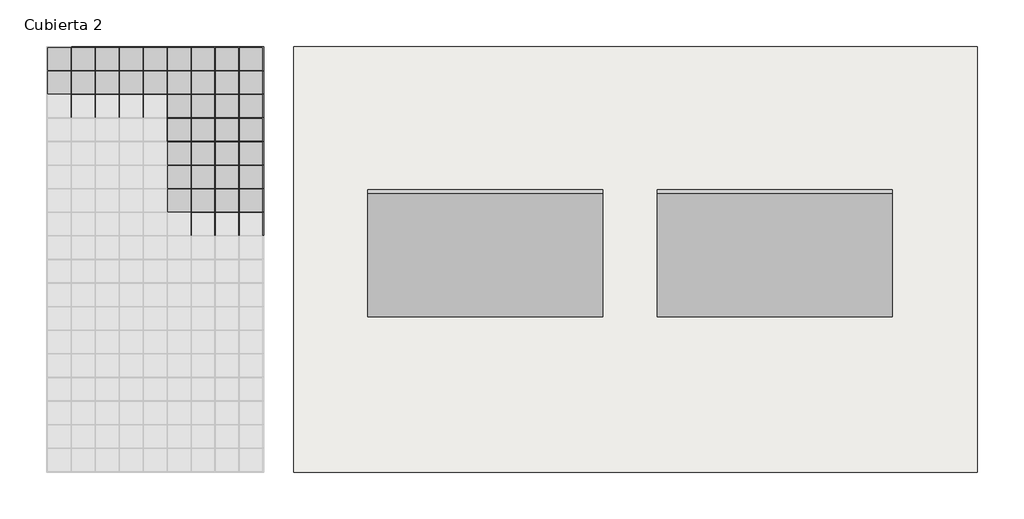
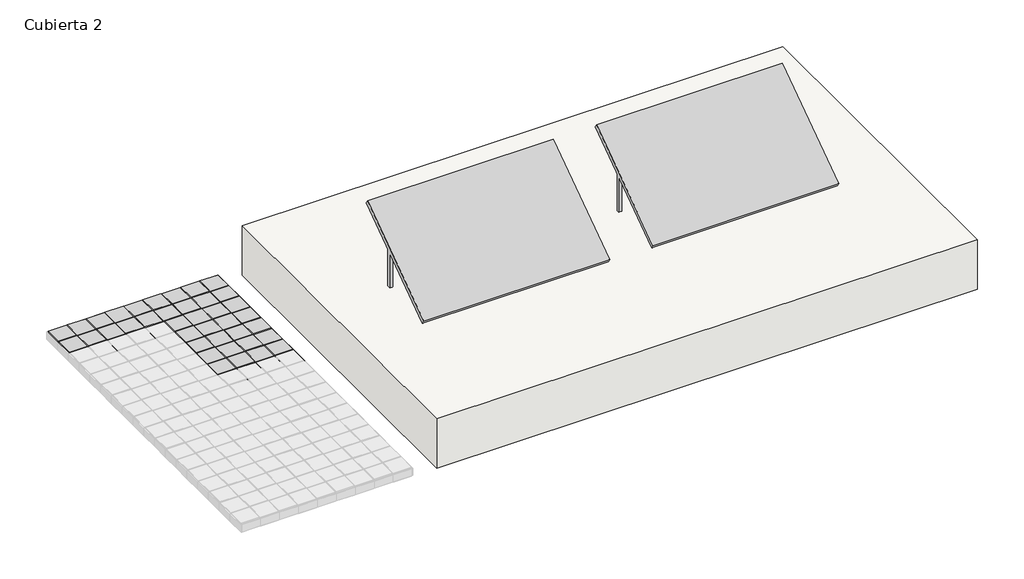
# One storey, part 4 of 4: 87 members, 38 plates, 2 geographic elements, 1 roof.
"""IFC4 building model written with IfcOpenShell, lengths in millimetres."""

from ifc_helpers import new_model, si_unit, frame, origin, place, context, project, spatial, polyline, outline, extrude, transform, mapped, element, save
from components import enscape_assetdefinition_solar_module_007_enscape_c3ce9a75, montante_rectangular_ea949198, montante_rectangular_327b2392, montante_rectangular_18b8adfa, montante_rectangular_c2f012c7, montante_rectangular_e7061a9b, montante_rectangular_ca4572ea, montante_rectangular_b9ac4352, panel_de_sistema_3571c154

model = new_model("IFC4")

# Units and contexts
model_context = context("Model", 3, world=origin())
ifc_project = project(units=[si_unit("LENGTHUNIT", "METRE", prefix="MILLI")], contexts=[model_context])

# Site, building, storey
site = spatial("IfcSite", under=ifc_project)
building = spatial("IfcBuilding", under=site)
storey = spatial("IfcBuildingStorey", under=building, Name="Cubierta 2", Elevation=9000.0)

# Geographic elements
placement = place(None, origin())
enscape_assetdefinition_solar_module_007_enscape_shape = enscape_assetdefinition_solar_module_007_enscape_c3ce9a75(model_context)
element("IfcGeographicElement", 1, ObjectType="Enscape AssetDefinition - Solar Module 007 : Enscape AssetDefinition - Solar Module 007 2", at=placement, inside=storey, context=model_context, shape_type="MappedRepresentation", body=[
    mapped(enscape_assetdefinition_solar_module_007_enscape_shape, transform((5.5350958, -6232.6669037, 9250.0), x_axis=(1.0, 0.0, 0.0), y_axis=(0.0, 1.0, 0.0), z_axis=(0.0, 0.0, 1.0))),
])
element("IfcGeographicElement", 2, ObjectType="Enscape AssetDefinition - Solar Module 007 : Enscape AssetDefinition - Solar Module 007 2", at=placement, inside=storey, context=model_context, shape_type="MappedRepresentation", body=[
    mapped(enscape_assetdefinition_solar_module_007_enscape_shape, transform((-2394.4649042, -6232.6669037, 9250.0), x_axis=(1.0, 0.0, 0.0), y_axis=(0.0, 1.0, 0.0), z_axis=(0.0, 0.0, 1.0))),
])

# Members
montante_rectangular_shape = montante_rectangular_ea949198(model_context)
element("IfcMember", 3, ObjectType="Montante rectangular : Junta de paves", at=placement, inside=storey, context=model_context, shape_type="MappedRepresentation", body=[
    mapped(montante_rectangular_shape, transform((-4827.7268467, -5886.5557926, 8750.0), x_axis=(0.0, 1.0, 0.0), y_axis=(0.0, 0.0, -1.0), z_axis=(-1.0, 0.0, 0.0))),
])
element("IfcMember", 4, ObjectType="Montante rectangular : Junta de paves", at=placement, inside=storey, context=model_context, shape_type="MappedRepresentation", body=[
    mapped(montante_rectangular_shape, transform((-4628.8379579, -5886.5557926, 8750.0), x_axis=(0.0, 1.0, 0.0), y_axis=(0.0, 0.0, -1.0), z_axis=(-1.0, 0.0, 0.0))),
])
element("IfcMember", 5, ObjectType="Montante rectangular : Junta de paves", at=placement, inside=storey, context=model_context, shape_type="MappedRepresentation", body=[
    mapped(montante_rectangular_shape, transform((-4429.949069, -5886.5557926, 8750.0), x_axis=(0.0, 1.0, 0.0), y_axis=(0.0, 0.0, -1.0), z_axis=(-1.0, 0.0, 0.0))),
])
element("IfcMember", 6, ObjectType="Montante rectangular : Junta de paves", at=placement, inside=storey, context=model_context, shape_type="MappedRepresentation", body=[
    mapped(montante_rectangular_shape, transform((-4827.7268467, -5691.000237, 8750.0), x_axis=(0.0, 1.0, 0.0), y_axis=(0.0, 0.0, -1.0), z_axis=(-1.0, 0.0, 0.0))),
])
element("IfcMember", 7, ObjectType="Montante rectangular : Junta de paves", at=placement, inside=storey, context=model_context, shape_type="MappedRepresentation", body=[
    mapped(montante_rectangular_shape, transform((-4628.8379579, -5691.000237, 8750.0), x_axis=(0.0, 1.0, 0.0), y_axis=(0.0, 0.0, -1.0), z_axis=(-1.0, 0.0, 0.0))),
])
element("IfcMember", 8, ObjectType="Montante rectangular : Junta de paves", at=placement, inside=storey, context=model_context, shape_type="MappedRepresentation", body=[
    mapped(montante_rectangular_shape, transform((-4429.949069, -5691.000237, 8750.0), x_axis=(0.0, 1.0, 0.0), y_axis=(0.0, 0.0, -1.0), z_axis=(-1.0, 0.0, 0.0))),
])
element("IfcMember", 9, ObjectType="Montante rectangular : Junta de paves", at=placement, inside=storey, context=model_context, shape_type="MappedRepresentation", body=[
    mapped(montante_rectangular_shape, transform((-4827.7268467, -5495.4446815, 8750.0), x_axis=(0.0, 1.0, 0.0), y_axis=(0.0, 0.0, -1.0), z_axis=(-1.0, 0.0, 0.0))),
])
element("IfcMember", 10, ObjectType="Montante rectangular : Junta de paves", at=placement, inside=storey, context=model_context, shape_type="MappedRepresentation", body=[
    mapped(montante_rectangular_shape, transform((-4628.8379579, -5495.4446815, 8750.0), x_axis=(0.0, 1.0, 0.0), y_axis=(0.0, 0.0, -1.0), z_axis=(-1.0, 0.0, 0.0))),
])
element("IfcMember", 11, ObjectType="Montante rectangular : Junta de paves", at=placement, inside=storey, context=model_context, shape_type="MappedRepresentation", body=[
    mapped(montante_rectangular_shape, transform((-4429.949069, -5495.4446815, 8750.0), x_axis=(0.0, 1.0, 0.0), y_axis=(0.0, 0.0, -1.0), z_axis=(-1.0, 0.0, 0.0))),
])
element("IfcMember", 12, ObjectType="Montante rectangular : Junta de paves", at=placement, inside=storey, context=model_context, shape_type="MappedRepresentation", body=[
    mapped(montante_rectangular_shape, transform((-4827.7268467, -5299.8891259, 8750.0), x_axis=(0.0, 1.0, 0.0), y_axis=(0.0, 0.0, -1.0), z_axis=(-1.0, 0.0, 0.0))),
])
element("IfcMember", 13, ObjectType="Montante rectangular : Junta de paves", at=placement, inside=storey, context=model_context, shape_type="MappedRepresentation", body=[
    mapped(montante_rectangular_shape, transform((-4628.8379579, -5299.8891259, 8750.0), x_axis=(0.0, 1.0, 0.0), y_axis=(0.0, 0.0, -1.0), z_axis=(-1.0, 0.0, 0.0))),
])
element("IfcMember", 14, ObjectType="Montante rectangular : Junta de paves", at=placement, inside=storey, context=model_context, shape_type="MappedRepresentation", body=[
    mapped(montante_rectangular_shape, transform((-4429.949069, -5299.8891259, 8750.0), x_axis=(0.0, 1.0, 0.0), y_axis=(0.0, 0.0, -1.0), z_axis=(-1.0, 0.0, 0.0))),
])
element("IfcMember", 15, ObjectType="Montante rectangular : Junta de paves", at=placement, inside=storey, context=model_context, shape_type="MappedRepresentation", body=[
    mapped(montante_rectangular_shape, transform((-4827.7268467, -5104.3335704, 8750.0), x_axis=(0.0, 1.0, 0.0), y_axis=(0.0, 0.0, -1.0), z_axis=(-1.0, 0.0, 0.0))),
])
element("IfcMember", 16, ObjectType="Montante rectangular : Junta de paves", at=placement, inside=storey, context=model_context, shape_type="MappedRepresentation", body=[
    mapped(montante_rectangular_shape, transform((-4628.8379579, -5104.3335704, 8750.0), x_axis=(0.0, 1.0, 0.0), y_axis=(0.0, 0.0, -1.0), z_axis=(-1.0, 0.0, 0.0))),
])
element("IfcMember", 17, ObjectType="Montante rectangular : Junta de paves", at=placement, inside=storey, context=model_context, shape_type="MappedRepresentation", body=[
    mapped(montante_rectangular_shape, transform((-4429.949069, -5104.3335704, 8750.0), x_axis=(0.0, 1.0, 0.0), y_axis=(0.0, 0.0, -1.0), z_axis=(-1.0, 0.0, 0.0))),
])
element("IfcMember", 18, ObjectType="Montante rectangular : Junta de paves", at=placement, inside=storey, context=model_context, shape_type="MappedRepresentation", body=[
    mapped(montante_rectangular_shape, transform((-5822.1712912, -4908.7780148, 8750.0), x_axis=(0.0, 1.0, 0.0), y_axis=(0.0, 0.0, -1.0), z_axis=(-1.0, 0.0, 0.0))),
])
element("IfcMember", 19, ObjectType="Montante rectangular : Junta de paves", at=placement, inside=storey, context=model_context, shape_type="MappedRepresentation", body=[
    mapped(montante_rectangular_shape, transform((-5623.2824023, -4908.7780148, 8750.0), x_axis=(0.0, 1.0, 0.0), y_axis=(0.0, 0.0, -1.0), z_axis=(-1.0, 0.0, 0.0))),
])
element("IfcMember", 20, ObjectType="Montante rectangular : Junta de paves", at=placement, inside=storey, context=model_context, shape_type="MappedRepresentation", body=[
    mapped(montante_rectangular_shape, transform((-5424.3935134, -4908.7780148, 8750.0), x_axis=(0.0, 1.0, 0.0), y_axis=(0.0, 0.0, -1.0), z_axis=(-1.0, 0.0, 0.0))),
])
element("IfcMember", 21, ObjectType="Montante rectangular : Junta de paves", at=placement, inside=storey, context=model_context, shape_type="MappedRepresentation", body=[
    mapped(montante_rectangular_shape, transform((-5225.5046245, -4908.7780148, 8750.0), x_axis=(0.0, 1.0, 0.0), y_axis=(0.0, 0.0, -1.0), z_axis=(-1.0, 0.0, 0.0))),
])
element("IfcMember", 22, ObjectType="Montante rectangular : Junta de paves", at=placement, inside=storey, context=model_context, shape_type="MappedRepresentation", body=[
    mapped(montante_rectangular_shape, transform((-5026.6157356, -4908.7780148, 8750.0), x_axis=(0.0, 1.0, 0.0), y_axis=(0.0, 0.0, -1.0), z_axis=(-1.0, 0.0, 0.0))),
])
element("IfcMember", 23, ObjectType="Montante rectangular : Junta de paves", at=placement, inside=storey, context=model_context, shape_type="MappedRepresentation", body=[
    mapped(montante_rectangular_shape, transform((-4827.7268467, -4908.7780148, 8750.0), x_axis=(0.0, 1.0, 0.0), y_axis=(0.0, 0.0, -1.0), z_axis=(-1.0, 0.0, 0.0))),
])
element("IfcMember", 24, ObjectType="Montante rectangular : Junta de paves", at=placement, inside=storey, context=model_context, shape_type="MappedRepresentation", body=[
    mapped(montante_rectangular_shape, transform((-4628.8379579, -4908.7780148, 8750.0), x_axis=(0.0, 1.0, 0.0), y_axis=(0.0, 0.0, -1.0), z_axis=(-1.0, 0.0, 0.0))),
])
element("IfcMember", 25, ObjectType="Montante rectangular : Junta de paves", at=placement, inside=storey, context=model_context, shape_type="MappedRepresentation", body=[
    mapped(montante_rectangular_shape, transform((-4429.949069, -4908.7780148, 8750.0), x_axis=(0.0, 1.0, 0.0), y_axis=(0.0, 0.0, -1.0), z_axis=(-1.0, 0.0, 0.0))),
])
element("IfcMember", 26, ObjectType="Montante rectangular : Junta de paves", at=placement, inside=storey, context=model_context, shape_type="MappedRepresentation", body=[
    mapped(montante_rectangular_shape, transform((-5822.1712912, -4713.2224592, 8750.0), x_axis=(0.0, 1.0, 0.0), y_axis=(0.0, 0.0, -1.0), z_axis=(-1.0, 0.0, 0.0))),
])
element("IfcMember", 27, ObjectType="Montante rectangular : Junta de paves", at=placement, inside=storey, context=model_context, shape_type="MappedRepresentation", body=[
    mapped(montante_rectangular_shape, transform((-5623.2824023, -4713.2224592, 8750.0), x_axis=(0.0, 1.0, 0.0), y_axis=(0.0, 0.0, -1.0), z_axis=(-1.0, 0.0, 0.0))),
])
element("IfcMember", 28, ObjectType="Montante rectangular : Junta de paves", at=placement, inside=storey, context=model_context, shape_type="MappedRepresentation", body=[
    mapped(montante_rectangular_shape, transform((-5424.3935134, -4713.2224592, 8750.0), x_axis=(0.0, 1.0, 0.0), y_axis=(0.0, 0.0, -1.0), z_axis=(-1.0, 0.0, 0.0))),
])
element("IfcMember", 29, ObjectType="Montante rectangular : Junta de paves", at=placement, inside=storey, context=model_context, shape_type="MappedRepresentation", body=[
    mapped(montante_rectangular_shape, transform((-5225.5046245, -4713.2224592, 8750.0), x_axis=(0.0, 1.0, 0.0), y_axis=(0.0, 0.0, -1.0), z_axis=(-1.0, 0.0, 0.0))),
])
element("IfcMember", 30, ObjectType="Montante rectangular : Junta de paves", at=placement, inside=storey, context=model_context, shape_type="MappedRepresentation", body=[
    mapped(montante_rectangular_shape, transform((-5026.6157356, -4713.2224592, 8750.0), x_axis=(0.0, 1.0, 0.0), y_axis=(0.0, 0.0, -1.0), z_axis=(-1.0, 0.0, 0.0))),
])
element("IfcMember", 31, ObjectType="Montante rectangular : Junta de paves", at=placement, inside=storey, context=model_context, shape_type="MappedRepresentation", body=[
    mapped(montante_rectangular_shape, transform((-4827.7268467, -4713.2224592, 8750.0), x_axis=(0.0, 1.0, 0.0), y_axis=(0.0, 0.0, -1.0), z_axis=(-1.0, 0.0, 0.0))),
])
element("IfcMember", 32, ObjectType="Montante rectangular : Junta de paves", at=placement, inside=storey, context=model_context, shape_type="MappedRepresentation", body=[
    mapped(montante_rectangular_shape, transform((-4628.8379579, -4713.2224592, 8750.0), x_axis=(0.0, 1.0, 0.0), y_axis=(0.0, 0.0, -1.0), z_axis=(-1.0, 0.0, 0.0))),
])
element("IfcMember", 33, ObjectType="Montante rectangular : Junta de paves", at=placement, inside=storey, context=model_context, shape_type="MappedRepresentation", body=[
    mapped(montante_rectangular_shape, transform((-4429.949069, -4713.2224592, 8750.0), x_axis=(0.0, 1.0, 0.0), y_axis=(0.0, 0.0, -1.0), z_axis=(-1.0, 0.0, 0.0))),
])
montante_rectangular_2_shape = montante_rectangular_327b2392(model_context)
element("IfcMember", 34, ObjectType="Montante rectangular : Junta de paves", at=placement, inside=storey, context=model_context, shape_type="MappedRepresentation", body=[
    mapped(montante_rectangular_2_shape, transform((-5827.1712912, -4522.6669037, 8750.0), x_axis=(1.0, 0.0, 0.0), y_axis=(0.0, 0.0, -1.0), z_axis=(0.0, 1.0, 0.0))),
])
element("IfcMember", 35, ObjectType="Montante rectangular : Junta de paves", at=placement, inside=storey, context=model_context, shape_type="MappedRepresentation", body=[
    mapped(montante_rectangular_2_shape, transform((-5628.2824023, -4522.6669037, 8750.0), x_axis=(1.0, 0.0, 0.0), y_axis=(0.0, 0.0, -1.0), z_axis=(0.0, 1.0, 0.0))),
])
element("IfcMember", 36, ObjectType="Montante rectangular : Junta de paves", at=placement, inside=storey, context=model_context, shape_type="MappedRepresentation", body=[
    mapped(montante_rectangular_2_shape, transform((-5429.3935134, -4522.6669037, 8750.0), x_axis=(1.0, 0.0, 0.0), y_axis=(0.0, 0.0, -1.0), z_axis=(0.0, 1.0, 0.0))),
])
element("IfcMember", 37, ObjectType="Montante rectangular : Junta de paves", at=placement, inside=storey, context=model_context, shape_type="MappedRepresentation", body=[
    mapped(montante_rectangular_2_shape, transform((-5230.5046245, -4522.6669037, 8750.0), x_axis=(1.0, 0.0, 0.0), y_axis=(0.0, 0.0, -1.0), z_axis=(0.0, 1.0, 0.0))),
])
element("IfcMember", 38, ObjectType="Montante rectangular : Junta de paves", at=placement, inside=storey, context=model_context, shape_type="MappedRepresentation", body=[
    mapped(montante_rectangular_2_shape, transform((-5031.6157356, -4522.6669037, 8750.0), x_axis=(1.0, 0.0, 0.0), y_axis=(0.0, 0.0, -1.0), z_axis=(0.0, 1.0, 0.0))),
])
element("IfcMember", 39, ObjectType="Montante rectangular : Junta de paves", at=placement, inside=storey, context=model_context, shape_type="MappedRepresentation", body=[
    mapped(montante_rectangular_2_shape, transform((-4832.7268467, -4522.6669037, 8750.0), x_axis=(1.0, 0.0, 0.0), y_axis=(0.0, 0.0, -1.0), z_axis=(0.0, 1.0, 0.0))),
])
element("IfcMember", 40, ObjectType="Montante rectangular : Junta de paves", at=placement, inside=storey, context=model_context, shape_type="MappedRepresentation", body=[
    mapped(montante_rectangular_2_shape, transform((-4633.8379579, -4522.6669037, 8750.0), x_axis=(1.0, 0.0, 0.0), y_axis=(0.0, 0.0, -1.0), z_axis=(0.0, 1.0, 0.0))),
])
element("IfcMember", 41, ObjectType="Montante rectangular : Junta de paves", at=placement, inside=storey, context=model_context, shape_type="MappedRepresentation", body=[
    mapped(montante_rectangular_2_shape, transform((-4434.949069, -4522.6669037, 8750.0), x_axis=(1.0, 0.0, 0.0), y_axis=(0.0, 0.0, -1.0), z_axis=(0.0, 1.0, 0.0))),
])
montante_rectangular_3_shape = montante_rectangular_18b8adfa(model_context)
element("IfcMember", 42, ObjectType="Montante rectangular : Junta de paves", at=placement, inside=storey, context=model_context, shape_type="MappedRepresentation", body=[
    mapped(montante_rectangular_3_shape, transform((-4832.7268467, -5886.5557926, 8750.0), x_axis=(1.0, 0.0, 0.0), y_axis=(0.0, 0.0, -1.0), z_axis=(0.0, 1.0, 0.0))),
])
element("IfcMember", 43, ObjectType="Montante rectangular : Junta de paves", at=placement, inside=storey, context=model_context, shape_type="MappedRepresentation", body=[
    mapped(montante_rectangular_3_shape, transform((-4633.8379579, -5886.5557926, 8750.0), x_axis=(1.0, 0.0, 0.0), y_axis=(0.0, 0.0, -1.0), z_axis=(0.0, 1.0, 0.0))),
])
element("IfcMember", 44, ObjectType="Montante rectangular : Junta de paves", at=placement, inside=storey, context=model_context, shape_type="MappedRepresentation", body=[
    mapped(montante_rectangular_3_shape, transform((-4434.949069, -5886.5557926, 8750.0), x_axis=(1.0, 0.0, 0.0), y_axis=(0.0, 0.0, -1.0), z_axis=(0.0, 1.0, 0.0))),
])
element("IfcMember", 45, ObjectType="Montante rectangular : Junta de paves", at=placement, inside=storey, context=model_context, shape_type="MappedRepresentation", body=[
    mapped(montante_rectangular_3_shape, transform((-4832.7268467, -5691.000237, 8750.0), x_axis=(1.0, 0.0, 0.0), y_axis=(0.0, 0.0, -1.0), z_axis=(0.0, 1.0, 0.0))),
])
element("IfcMember", 46, ObjectType="Montante rectangular : Junta de paves", at=placement, inside=storey, context=model_context, shape_type="MappedRepresentation", body=[
    mapped(montante_rectangular_3_shape, transform((-4633.8379579, -5691.000237, 8750.0), x_axis=(1.0, 0.0, 0.0), y_axis=(0.0, 0.0, -1.0), z_axis=(0.0, 1.0, 0.0))),
])
element("IfcMember", 47, ObjectType="Montante rectangular : Junta de paves", at=placement, inside=storey, context=model_context, shape_type="MappedRepresentation", body=[
    mapped(montante_rectangular_3_shape, transform((-4434.949069, -5691.000237, 8750.0), x_axis=(1.0, 0.0, 0.0), y_axis=(0.0, 0.0, -1.0), z_axis=(0.0, 1.0, 0.0))),
])
element("IfcMember", 48, ObjectType="Montante rectangular : Junta de paves", at=placement, inside=storey, context=model_context, shape_type="MappedRepresentation", body=[
    mapped(montante_rectangular_3_shape, transform((-4832.7268467, -5495.4446815, 8750.0), x_axis=(1.0, 0.0, 0.0), y_axis=(0.0, 0.0, -1.0), z_axis=(0.0, 1.0, 0.0))),
])
element("IfcMember", 49, ObjectType="Montante rectangular : Junta de paves", at=placement, inside=storey, context=model_context, shape_type="MappedRepresentation", body=[
    mapped(montante_rectangular_3_shape, transform((-4633.8379579, -5495.4446815, 8750.0), x_axis=(1.0, 0.0, 0.0), y_axis=(0.0, 0.0, -1.0), z_axis=(0.0, 1.0, 0.0))),
])
element("IfcMember", 50, ObjectType="Montante rectangular : Junta de paves", at=placement, inside=storey, context=model_context, shape_type="MappedRepresentation", body=[
    mapped(montante_rectangular_3_shape, transform((-4434.949069, -5495.4446815, 8750.0), x_axis=(1.0, 0.0, 0.0), y_axis=(0.0, 0.0, -1.0), z_axis=(0.0, 1.0, 0.0))),
])
element("IfcMember", 51, ObjectType="Montante rectangular : Junta de paves", at=placement, inside=storey, context=model_context, shape_type="MappedRepresentation", body=[
    mapped(montante_rectangular_3_shape, transform((-4832.7268467, -5299.8891259, 8750.0), x_axis=(1.0, 0.0, 0.0), y_axis=(0.0, 0.0, -1.0), z_axis=(0.0, 1.0, 0.0))),
])
element("IfcMember", 52, ObjectType="Montante rectangular : Junta de paves", at=placement, inside=storey, context=model_context, shape_type="MappedRepresentation", body=[
    mapped(montante_rectangular_3_shape, transform((-4633.8379579, -5299.8891259, 8750.0), x_axis=(1.0, 0.0, 0.0), y_axis=(0.0, 0.0, -1.0), z_axis=(0.0, 1.0, 0.0))),
])
element("IfcMember", 53, ObjectType="Montante rectangular : Junta de paves", at=placement, inside=storey, context=model_context, shape_type="MappedRepresentation", body=[
    mapped(montante_rectangular_3_shape, transform((-4434.949069, -5299.8891259, 8750.0), x_axis=(1.0, 0.0, 0.0), y_axis=(0.0, 0.0, -1.0), z_axis=(0.0, 1.0, 0.0))),
])
element("IfcMember", 54, ObjectType="Montante rectangular : Junta de paves", at=placement, inside=storey, context=model_context, shape_type="MappedRepresentation", body=[
    mapped(montante_rectangular_3_shape, transform((-5031.6157356, -5104.3335704, 8750.0), x_axis=(1.0, 0.0, 0.0), y_axis=(0.0, 0.0, -1.0), z_axis=(0.0, 1.0, 0.0))),
])
element("IfcMember", 55, ObjectType="Montante rectangular : Junta de paves", at=placement, inside=storey, context=model_context, shape_type="MappedRepresentation", body=[
    mapped(montante_rectangular_3_shape, transform((-4832.7268467, -5104.3335704, 8750.0), x_axis=(1.0, 0.0, 0.0), y_axis=(0.0, 0.0, -1.0), z_axis=(0.0, 1.0, 0.0))),
])
element("IfcMember", 56, ObjectType="Montante rectangular : Junta de paves", at=placement, inside=storey, context=model_context, shape_type="MappedRepresentation", body=[
    mapped(montante_rectangular_3_shape, transform((-4633.8379579, -5104.3335704, 8750.0), x_axis=(1.0, 0.0, 0.0), y_axis=(0.0, 0.0, -1.0), z_axis=(0.0, 1.0, 0.0))),
])
element("IfcMember", 57, ObjectType="Montante rectangular : Junta de paves", at=placement, inside=storey, context=model_context, shape_type="MappedRepresentation", body=[
    mapped(montante_rectangular_3_shape, transform((-4434.949069, -5104.3335704, 8750.0), x_axis=(1.0, 0.0, 0.0), y_axis=(0.0, 0.0, -1.0), z_axis=(0.0, 1.0, 0.0))),
])
element("IfcMember", 58, ObjectType="Montante rectangular : Junta de paves", at=placement, inside=storey, context=model_context, shape_type="MappedRepresentation", body=[
    mapped(montante_rectangular_3_shape, transform((-5827.1712912, -4908.7780148, 8750.0), x_axis=(1.0, 0.0, 0.0), y_axis=(0.0, 0.0, -1.0), z_axis=(0.0, 1.0, 0.0))),
])
element("IfcMember", 59, ObjectType="Montante rectangular : Junta de paves", at=placement, inside=storey, context=model_context, shape_type="MappedRepresentation", body=[
    mapped(montante_rectangular_3_shape, transform((-5628.2824023, -4908.7780148, 8750.0), x_axis=(1.0, 0.0, 0.0), y_axis=(0.0, 0.0, -1.0), z_axis=(0.0, 1.0, 0.0))),
])
element("IfcMember", 60, ObjectType="Montante rectangular : Junta de paves", at=placement, inside=storey, context=model_context, shape_type="MappedRepresentation", body=[
    mapped(montante_rectangular_3_shape, transform((-5429.3935134, -4908.7780148, 8750.0), x_axis=(1.0, 0.0, 0.0), y_axis=(0.0, 0.0, -1.0), z_axis=(0.0, 1.0, 0.0))),
])
element("IfcMember", 61, ObjectType="Montante rectangular : Junta de paves", at=placement, inside=storey, context=model_context, shape_type="MappedRepresentation", body=[
    mapped(montante_rectangular_3_shape, transform((-5230.5046245, -4908.7780148, 8750.0), x_axis=(1.0, 0.0, 0.0), y_axis=(0.0, 0.0, -1.0), z_axis=(0.0, 1.0, 0.0))),
])
element("IfcMember", 62, ObjectType="Montante rectangular : Junta de paves", at=placement, inside=storey, context=model_context, shape_type="MappedRepresentation", body=[
    mapped(montante_rectangular_3_shape, transform((-5031.6157356, -4908.7780148, 8750.0), x_axis=(1.0, 0.0, 0.0), y_axis=(0.0, 0.0, -1.0), z_axis=(0.0, 1.0, 0.0))),
])
element("IfcMember", 63, ObjectType="Montante rectangular : Junta de paves", at=placement, inside=storey, context=model_context, shape_type="MappedRepresentation", body=[
    mapped(montante_rectangular_3_shape, transform((-4832.7268467, -4908.7780148, 8750.0), x_axis=(1.0, 0.0, 0.0), y_axis=(0.0, 0.0, -1.0), z_axis=(0.0, 1.0, 0.0))),
])
element("IfcMember", 64, ObjectType="Montante rectangular : Junta de paves", at=placement, inside=storey, context=model_context, shape_type="MappedRepresentation", body=[
    mapped(montante_rectangular_3_shape, transform((-4633.8379579, -4908.7780148, 8750.0), x_axis=(1.0, 0.0, 0.0), y_axis=(0.0, 0.0, -1.0), z_axis=(0.0, 1.0, 0.0))),
])
element("IfcMember", 65, ObjectType="Montante rectangular : Junta de paves", at=placement, inside=storey, context=model_context, shape_type="MappedRepresentation", body=[
    mapped(montante_rectangular_3_shape, transform((-4434.949069, -4908.7780148, 8750.0), x_axis=(1.0, 0.0, 0.0), y_axis=(0.0, 0.0, -1.0), z_axis=(0.0, 1.0, 0.0))),
])
element("IfcMember", 66, ObjectType="Montante rectangular : Junta de paves", at=placement, inside=storey, context=model_context, shape_type="MappedRepresentation", body=[
    mapped(montante_rectangular_3_shape, transform((-5827.1712912, -4713.2224592, 8750.0), x_axis=(1.0, 0.0, 0.0), y_axis=(0.0, 0.0, -1.0), z_axis=(0.0, 1.0, 0.0))),
])
element("IfcMember", 67, ObjectType="Montante rectangular : Junta de paves", at=placement, inside=storey, context=model_context, shape_type="MappedRepresentation", body=[
    mapped(montante_rectangular_3_shape, transform((-5628.2824023, -4713.2224592, 8750.0), x_axis=(1.0, 0.0, 0.0), y_axis=(0.0, 0.0, -1.0), z_axis=(0.0, 1.0, 0.0))),
])
element("IfcMember", 68, ObjectType="Montante rectangular : Junta de paves", at=placement, inside=storey, context=model_context, shape_type="MappedRepresentation", body=[
    mapped(montante_rectangular_3_shape, transform((-5429.3935134, -4713.2224592, 8750.0), x_axis=(1.0, 0.0, 0.0), y_axis=(0.0, 0.0, -1.0), z_axis=(0.0, 1.0, 0.0))),
])
element("IfcMember", 69, ObjectType="Montante rectangular : Junta de paves", at=placement, inside=storey, context=model_context, shape_type="MappedRepresentation", body=[
    mapped(montante_rectangular_3_shape, transform((-5230.5046245, -4713.2224592, 8750.0), x_axis=(1.0, 0.0, 0.0), y_axis=(0.0, 0.0, -1.0), z_axis=(0.0, 1.0, 0.0))),
])
element("IfcMember", 70, ObjectType="Montante rectangular : Junta de paves", at=placement, inside=storey, context=model_context, shape_type="MappedRepresentation", body=[
    mapped(montante_rectangular_3_shape, transform((-5031.6157356, -4713.2224592, 8750.0), x_axis=(1.0, 0.0, 0.0), y_axis=(0.0, 0.0, -1.0), z_axis=(0.0, 1.0, 0.0))),
])
element("IfcMember", 71, ObjectType="Montante rectangular : Junta de paves", at=placement, inside=storey, context=model_context, shape_type="MappedRepresentation", body=[
    mapped(montante_rectangular_3_shape, transform((-4832.7268467, -4713.2224592, 8750.0), x_axis=(1.0, 0.0, 0.0), y_axis=(0.0, 0.0, -1.0), z_axis=(0.0, 1.0, 0.0))),
])
element("IfcMember", 72, ObjectType="Montante rectangular : Junta de paves", at=placement, inside=storey, context=model_context, shape_type="MappedRepresentation", body=[
    mapped(montante_rectangular_3_shape, transform((-4633.8379579, -4713.2224592, 8750.0), x_axis=(1.0, 0.0, 0.0), y_axis=(0.0, 0.0, -1.0), z_axis=(0.0, 1.0, 0.0))),
])
element("IfcMember", 73, ObjectType="Montante rectangular : Junta de paves", at=placement, inside=storey, context=model_context, shape_type="MappedRepresentation", body=[
    mapped(montante_rectangular_3_shape, transform((-4434.949069, -4713.2224592, 8750.0), x_axis=(1.0, 0.0, 0.0), y_axis=(0.0, 0.0, -1.0), z_axis=(0.0, 1.0, 0.0))),
])
montante_rectangular_4_shape = montante_rectangular_c2f012c7(model_context)
element("IfcMember", 74, ObjectType="Montante rectangular : Junta de paves", at=placement, inside=storey, context=model_context, shape_type="MappedRepresentation", body=[
    mapped(montante_rectangular_4_shape, transform((-4231.0601801, -4512.6669037, 8750.0), x_axis=(1.0, 0.0, 0.0), y_axis=(0.0, 0.0, -1.0), z_axis=(0.0, 1.0, 0.0))),
])
montante_rectangular_5_shape = montante_rectangular_e7061a9b(model_context)
element("IfcMember", 75, ObjectType="Montante rectangular : Junta de paves", at=placement, inside=storey, context=model_context, shape_type="MappedRepresentation", body=[
    mapped(montante_rectangular_5_shape, transform((-4434.949069, -4512.6669037, 8750.0), x_axis=(0.0, 1.0, 0.0), y_axis=(0.0, 0.0, -1.0), z_axis=(-1.0, 0.0, 0.0))),
])
montante_rectangular_6_shape = montante_rectangular_ca4572ea(model_context)
element("IfcMember", 76, ObjectType="Montante rectangular : Junta de paves", at=placement, inside=storey, context=model_context, shape_type="MappedRepresentation", body=[
    mapped(montante_rectangular_6_shape, transform((-5827.1712912, -4512.6669037, 8750.0), x_axis=(0.0, 1.0, 0.0), y_axis=(0.0, 0.0, -1.0), z_axis=(-1.0, 0.0, 0.0))),
])
element("IfcMember", 77, ObjectType="Montante rectangular : Junta de paves", at=placement, inside=storey, context=model_context, shape_type="MappedRepresentation", body=[
    mapped(montante_rectangular_6_shape, transform((-5628.2824023, -4512.6669037, 8750.0), x_axis=(0.0, 1.0, 0.0), y_axis=(0.0, 0.0, -1.0), z_axis=(-1.0, 0.0, 0.0))),
])
element("IfcMember", 78, ObjectType="Montante rectangular : Junta de paves", at=placement, inside=storey, context=model_context, shape_type="MappedRepresentation", body=[
    mapped(montante_rectangular_6_shape, transform((-5429.3935134, -4512.6669037, 8750.0), x_axis=(0.0, 1.0, 0.0), y_axis=(0.0, 0.0, -1.0), z_axis=(-1.0, 0.0, 0.0))),
])
element("IfcMember", 79, ObjectType="Montante rectangular : Junta de paves", at=placement, inside=storey, context=model_context, shape_type="MappedRepresentation", body=[
    mapped(montante_rectangular_6_shape, transform((-5230.5046245, -4512.6669037, 8750.0), x_axis=(0.0, 1.0, 0.0), y_axis=(0.0, 0.0, -1.0), z_axis=(-1.0, 0.0, 0.0))),
])
element("IfcMember", 80, ObjectType="Montante rectangular : Junta de paves", at=placement, inside=storey, context=model_context, shape_type="MappedRepresentation", body=[
    mapped(montante_rectangular_6_shape, transform((-5031.6157356, -4512.6669037, 8750.0), x_axis=(0.0, 1.0, 0.0), y_axis=(0.0, 0.0, -1.0), z_axis=(-1.0, 0.0, 0.0))),
])
element("IfcMember", 81, ObjectType="Montante rectangular : Junta de paves", at=placement, inside=storey, context=model_context, shape_type="MappedRepresentation", body=[
    mapped(montante_rectangular_6_shape, transform((-4832.7268467, -4512.6669037, 8750.0), x_axis=(0.0, 1.0, 0.0), y_axis=(0.0, 0.0, -1.0), z_axis=(-1.0, 0.0, 0.0))),
])
element("IfcMember", 82, ObjectType="Montante rectangular : Junta de paves", at=placement, inside=storey, context=model_context, shape_type="MappedRepresentation", body=[
    mapped(montante_rectangular_6_shape, transform((-4633.8379579, -4512.6669037, 8750.0), x_axis=(0.0, 1.0, 0.0), y_axis=(0.0, 0.0, -1.0), z_axis=(-1.0, 0.0, 0.0))),
])
montante_rectangular_7_shape = montante_rectangular_b9ac4352(model_context)
element("IfcMember", 83, ObjectType="Montante rectangular : Junta de paves", at=placement, inside=storey, context=model_context, shape_type="MappedRepresentation", body=[
    mapped(montante_rectangular_7_shape, transform((-4231.0601801, -5886.5557926, 8750.0), x_axis=(1.0, 0.0, 0.0), y_axis=(0.0, 0.0, -1.0), z_axis=(0.0, 1.0, 0.0))),
])
element("IfcMember", 84, ObjectType="Montante rectangular : Junta de paves", at=placement, inside=storey, context=model_context, shape_type="MappedRepresentation", body=[
    mapped(montante_rectangular_7_shape, transform((-4231.0601801, -5691.000237, 8750.0), x_axis=(1.0, 0.0, 0.0), y_axis=(0.0, 0.0, -1.0), z_axis=(0.0, 1.0, 0.0))),
])
element("IfcMember", 85, ObjectType="Montante rectangular : Junta de paves", at=placement, inside=storey, context=model_context, shape_type="MappedRepresentation", body=[
    mapped(montante_rectangular_7_shape, transform((-4231.0601801, -5495.4446815, 8750.0), x_axis=(1.0, 0.0, 0.0), y_axis=(0.0, 0.0, -1.0), z_axis=(0.0, 1.0, 0.0))),
])
element("IfcMember", 86, ObjectType="Montante rectangular : Junta de paves", at=placement, inside=storey, context=model_context, shape_type="MappedRepresentation", body=[
    mapped(montante_rectangular_7_shape, transform((-4231.0601801, -5299.8891259, 8750.0), x_axis=(1.0, 0.0, 0.0), y_axis=(0.0, 0.0, -1.0), z_axis=(0.0, 1.0, 0.0))),
])
element("IfcMember", 87, ObjectType="Montante rectangular : Junta de paves", at=placement, inside=storey, context=model_context, shape_type="MappedRepresentation", body=[
    mapped(montante_rectangular_7_shape, transform((-4231.0601801, -5104.3335704, 8750.0), x_axis=(1.0, 0.0, 0.0), y_axis=(0.0, 0.0, -1.0), z_axis=(0.0, 1.0, 0.0))),
])
element("IfcMember", 88, ObjectType="Montante rectangular : Junta de paves", at=placement, inside=storey, context=model_context, shape_type="MappedRepresentation", body=[
    mapped(montante_rectangular_7_shape, transform((-4231.0601801, -4908.7780148, 8750.0), x_axis=(1.0, 0.0, 0.0), y_axis=(0.0, 0.0, -1.0), z_axis=(0.0, 1.0, 0.0))),
])
element("IfcMember", 89, ObjectType="Montante rectangular : Junta de paves", at=placement, inside=storey, context=model_context, shape_type="MappedRepresentation", body=[
    mapped(montante_rectangular_7_shape, transform((-4231.0601801, -4713.2224592, 8750.0), x_axis=(1.0, 0.0, 0.0), y_axis=(0.0, 0.0, -1.0), z_axis=(0.0, 1.0, 0.0))),
])

# Plates
panel_de_sistema_shape = panel_de_sistema_3571c154(model_context)
element("IfcPlate", 90, ObjectType="Panel de sistema : PAVES", at=placement, inside=storey, context=model_context, shape_type="MappedRepresentation", body=[
    mapped(panel_de_sistema_shape, transform((-4932.1712912, -5881.5557926, 8750.0), x_axis=(1.0, 0.0, 0.0), y_axis=(0.0, 0.0, -1.0), z_axis=(0.0, 1.0, 0.0))),
])
element("IfcPlate", 91, ObjectType="Panel de sistema : PAVES", at=placement, inside=storey, context=model_context, shape_type="MappedRepresentation", body=[
    mapped(panel_de_sistema_shape, transform((-4733.2824023, -5881.5557926, 8750.0), x_axis=(1.0, 0.0, 0.0), y_axis=(0.0, 0.0, -1.0), z_axis=(0.0, 1.0, 0.0))),
])
element("IfcPlate", 92, ObjectType="Panel de sistema : PAVES", at=placement, inside=storey, context=model_context, shape_type="MappedRepresentation", body=[
    mapped(panel_de_sistema_shape, transform((-4534.3935134, -5881.5557926, 8750.0), x_axis=(1.0, 0.0, 0.0), y_axis=(0.0, 0.0, -1.0), z_axis=(0.0, 1.0, 0.0))),
])
element("IfcPlate", 93, ObjectType="Panel de sistema : PAVES", at=placement, inside=storey, context=model_context, shape_type="MappedRepresentation", body=[
    mapped(panel_de_sistema_shape, transform((-4335.5046245, -5881.5557926, 8750.0), x_axis=(1.0, 0.0, 0.0), y_axis=(0.0, 0.0, -1.0), z_axis=(0.0, 1.0, 0.0))),
])
element("IfcPlate", 94, ObjectType="Panel de sistema : PAVES", at=placement, inside=storey, context=model_context, shape_type="MappedRepresentation", body=[
    mapped(panel_de_sistema_shape, transform((-4932.1712912, -5686.000237, 8750.0), x_axis=(1.0, 0.0, 0.0), y_axis=(0.0, 0.0, -1.0), z_axis=(0.0, 1.0, 0.0))),
])
element("IfcPlate", 95, ObjectType="Panel de sistema : PAVES", at=placement, inside=storey, context=model_context, shape_type="MappedRepresentation", body=[
    mapped(panel_de_sistema_shape, transform((-4733.2824023, -5686.000237, 8750.0), x_axis=(1.0, 0.0, 0.0), y_axis=(0.0, 0.0, -1.0), z_axis=(0.0, 1.0, 0.0))),
])
element("IfcPlate", 96, ObjectType="Panel de sistema : PAVES", at=placement, inside=storey, context=model_context, shape_type="MappedRepresentation", body=[
    mapped(panel_de_sistema_shape, transform((-4534.3935134, -5686.000237, 8750.0), x_axis=(1.0, 0.0, 0.0), y_axis=(0.0, 0.0, -1.0), z_axis=(0.0, 1.0, 0.0))),
])
element("IfcPlate", 97, ObjectType="Panel de sistema : PAVES", at=placement, inside=storey, context=model_context, shape_type="MappedRepresentation", body=[
    mapped(panel_de_sistema_shape, transform((-4335.5046245, -5686.000237, 8750.0), x_axis=(1.0, 0.0, 0.0), y_axis=(0.0, 0.0, -1.0), z_axis=(0.0, 1.0, 0.0))),
])
element("IfcPlate", 98, ObjectType="Panel de sistema : PAVES", at=placement, inside=storey, context=model_context, shape_type="MappedRepresentation", body=[
    mapped(panel_de_sistema_shape, transform((-4932.1712912, -5490.4446815, 8750.0), x_axis=(1.0, 0.0, 0.0), y_axis=(0.0, 0.0, -1.0), z_axis=(0.0, 1.0, 0.0))),
])
element("IfcPlate", 99, ObjectType="Panel de sistema : PAVES", at=placement, inside=storey, context=model_context, shape_type="MappedRepresentation", body=[
    mapped(panel_de_sistema_shape, transform((-4733.2824023, -5490.4446815, 8750.0), x_axis=(1.0, 0.0, 0.0), y_axis=(0.0, 0.0, -1.0), z_axis=(0.0, 1.0, 0.0))),
])
element("IfcPlate", 100, ObjectType="Panel de sistema : PAVES", at=placement, inside=storey, context=model_context, shape_type="MappedRepresentation", body=[
    mapped(panel_de_sistema_shape, transform((-4534.3935134, -5490.4446815, 8750.0), x_axis=(1.0, 0.0, 0.0), y_axis=(0.0, 0.0, -1.0), z_axis=(0.0, 1.0, 0.0))),
])
element("IfcPlate", 101, ObjectType="Panel de sistema : PAVES", at=placement, inside=storey, context=model_context, shape_type="MappedRepresentation", body=[
    mapped(panel_de_sistema_shape, transform((-4335.5046245, -5490.4446815, 8750.0), x_axis=(1.0, 0.0, 0.0), y_axis=(0.0, 0.0, -1.0), z_axis=(0.0, 1.0, 0.0))),
])
element("IfcPlate", 102, ObjectType="Panel de sistema : PAVES", at=placement, inside=storey, context=model_context, shape_type="MappedRepresentation", body=[
    mapped(panel_de_sistema_shape, transform((-4932.1712912, -5294.8891259, 8750.0), x_axis=(1.0, 0.0, 0.0), y_axis=(0.0, 0.0, -1.0), z_axis=(0.0, 1.0, 0.0))),
])
element("IfcPlate", 103, ObjectType="Panel de sistema : PAVES", at=placement, inside=storey, context=model_context, shape_type="MappedRepresentation", body=[
    mapped(panel_de_sistema_shape, transform((-4733.2824023, -5294.8891259, 8750.0), x_axis=(1.0, 0.0, 0.0), y_axis=(0.0, 0.0, -1.0), z_axis=(0.0, 1.0, 0.0))),
])
element("IfcPlate", 104, ObjectType="Panel de sistema : PAVES", at=placement, inside=storey, context=model_context, shape_type="MappedRepresentation", body=[
    mapped(panel_de_sistema_shape, transform((-4534.3935134, -5294.8891259, 8750.0), x_axis=(1.0, 0.0, 0.0), y_axis=(0.0, 0.0, -1.0), z_axis=(0.0, 1.0, 0.0))),
])
element("IfcPlate", 105, ObjectType="Panel de sistema : PAVES", at=placement, inside=storey, context=model_context, shape_type="MappedRepresentation", body=[
    mapped(panel_de_sistema_shape, transform((-4335.5046245, -5294.8891259, 8750.0), x_axis=(1.0, 0.0, 0.0), y_axis=(0.0, 0.0, -1.0), z_axis=(0.0, 1.0, 0.0))),
])
element("IfcPlate", 106, ObjectType="Panel de sistema : PAVES", at=placement, inside=storey, context=model_context, shape_type="MappedRepresentation", body=[
    mapped(panel_de_sistema_shape, transform((-4932.1712912, -5099.3335704, 8750.0), x_axis=(1.0, 0.0, 0.0), y_axis=(0.0, 0.0, -1.0), z_axis=(0.0, 1.0, 0.0))),
])
element("IfcPlate", 107, ObjectType="Panel de sistema : PAVES", at=placement, inside=storey, context=model_context, shape_type="MappedRepresentation", body=[
    mapped(panel_de_sistema_shape, transform((-4733.2824023, -5099.3335704, 8750.0), x_axis=(1.0, 0.0, 0.0), y_axis=(0.0, 0.0, -1.0), z_axis=(0.0, 1.0, 0.0))),
])
element("IfcPlate", 108, ObjectType="Panel de sistema : PAVES", at=placement, inside=storey, context=model_context, shape_type="MappedRepresentation", body=[
    mapped(panel_de_sistema_shape, transform((-4534.3935134, -5099.3335704, 8750.0), x_axis=(1.0, 0.0, 0.0), y_axis=(0.0, 0.0, -1.0), z_axis=(0.0, 1.0, 0.0))),
])
element("IfcPlate", 109, ObjectType="Panel de sistema : PAVES", at=placement, inside=storey, context=model_context, shape_type="MappedRepresentation", body=[
    mapped(panel_de_sistema_shape, transform((-4335.5046245, -5099.3335704, 8750.0), x_axis=(1.0, 0.0, 0.0), y_axis=(0.0, 0.0, -1.0), z_axis=(0.0, 1.0, 0.0))),
])
element("IfcPlate", 110, ObjectType="Panel de sistema : PAVES", at=placement, inside=storey, context=model_context, shape_type="MappedRepresentation", body=[
    mapped(panel_de_sistema_shape, transform((-5926.6157356, -4903.7780148, 8750.0), x_axis=(1.0, 0.0, 0.0), y_axis=(0.0, 0.0, -1.0), z_axis=(0.0, 1.0, 0.0))),
])
element("IfcPlate", 111, ObjectType="Panel de sistema : PAVES", at=placement, inside=storey, context=model_context, shape_type="MappedRepresentation", body=[
    mapped(panel_de_sistema_shape, transform((-5727.7268467, -4903.7780148, 8750.0), x_axis=(1.0, 0.0, 0.0), y_axis=(0.0, 0.0, -1.0), z_axis=(0.0, 1.0, 0.0))),
])
element("IfcPlate", 112, ObjectType="Panel de sistema : PAVES", at=placement, inside=storey, context=model_context, shape_type="MappedRepresentation", body=[
    mapped(panel_de_sistema_shape, transform((-5528.8379579, -4903.7780148, 8750.0), x_axis=(1.0, 0.0, 0.0), y_axis=(0.0, 0.0, -1.0), z_axis=(0.0, 1.0, 0.0))),
])
element("IfcPlate", 113, ObjectType="Panel de sistema : PAVES", at=placement, inside=storey, context=model_context, shape_type="MappedRepresentation", body=[
    mapped(panel_de_sistema_shape, transform((-5329.949069, -4903.7780148, 8750.0), x_axis=(1.0, 0.0, 0.0), y_axis=(0.0, 0.0, -1.0), z_axis=(0.0, 1.0, 0.0))),
])
element("IfcPlate", 114, ObjectType="Panel de sistema : PAVES", at=placement, inside=storey, context=model_context, shape_type="MappedRepresentation", body=[
    mapped(panel_de_sistema_shape, transform((-5131.0601801, -4903.7780148, 8750.0), x_axis=(1.0, 0.0, 0.0), y_axis=(0.0, 0.0, -1.0), z_axis=(0.0, 1.0, 0.0))),
])
element("IfcPlate", 115, ObjectType="Panel de sistema : PAVES", at=placement, inside=storey, context=model_context, shape_type="MappedRepresentation", body=[
    mapped(panel_de_sistema_shape, transform((-4932.1712912, -4903.7780148, 8750.0), x_axis=(1.0, 0.0, 0.0), y_axis=(0.0, 0.0, -1.0), z_axis=(0.0, 1.0, 0.0))),
])
element("IfcPlate", 116, ObjectType="Panel de sistema : PAVES", at=placement, inside=storey, context=model_context, shape_type="MappedRepresentation", body=[
    mapped(panel_de_sistema_shape, transform((-4733.2824023, -4903.7780148, 8750.0), x_axis=(1.0, 0.0, 0.0), y_axis=(0.0, 0.0, -1.0), z_axis=(0.0, 1.0, 0.0))),
])
element("IfcPlate", 117, ObjectType="Panel de sistema : PAVES", at=placement, inside=storey, context=model_context, shape_type="MappedRepresentation", body=[
    mapped(panel_de_sistema_shape, transform((-4534.3935134, -4903.7780148, 8750.0), x_axis=(1.0, 0.0, 0.0), y_axis=(0.0, 0.0, -1.0), z_axis=(0.0, 1.0, 0.0))),
])
element("IfcPlate", 118, ObjectType="Panel de sistema : PAVES", at=placement, inside=storey, context=model_context, shape_type="MappedRepresentation", body=[
    mapped(panel_de_sistema_shape, transform((-4335.5046245, -4903.7780148, 8750.0), x_axis=(1.0, 0.0, 0.0), y_axis=(0.0, 0.0, -1.0), z_axis=(0.0, 1.0, 0.0))),
])
element("IfcPlate", 119, ObjectType="Panel de sistema : PAVES", at=placement, inside=storey, context=model_context, shape_type="MappedRepresentation", body=[
    mapped(panel_de_sistema_shape, transform((-5926.6157356, -4708.2224592, 8750.0), x_axis=(1.0, 0.0, 0.0), y_axis=(0.0, 0.0, -1.0), z_axis=(0.0, 1.0, 0.0))),
])
element("IfcPlate", 120, ObjectType="Panel de sistema : PAVES", at=placement, inside=storey, context=model_context, shape_type="MappedRepresentation", body=[
    mapped(panel_de_sistema_shape, transform((-5727.7268467, -4708.2224592, 8750.0), x_axis=(1.0, 0.0, 0.0), y_axis=(0.0, 0.0, -1.0), z_axis=(0.0, 1.0, 0.0))),
])
element("IfcPlate", 121, ObjectType="Panel de sistema : PAVES", at=placement, inside=storey, context=model_context, shape_type="MappedRepresentation", body=[
    mapped(panel_de_sistema_shape, transform((-5528.8379579, -4708.2224592, 8750.0), x_axis=(1.0, 0.0, 0.0), y_axis=(0.0, 0.0, -1.0), z_axis=(0.0, 1.0, 0.0))),
])
element("IfcPlate", 122, ObjectType="Panel de sistema : PAVES", at=placement, inside=storey, context=model_context, shape_type="MappedRepresentation", body=[
    mapped(panel_de_sistema_shape, transform((-5329.949069, -4708.2224592, 8750.0), x_axis=(1.0, 0.0, 0.0), y_axis=(0.0, 0.0, -1.0), z_axis=(0.0, 1.0, 0.0))),
])
element("IfcPlate", 123, ObjectType="Panel de sistema : PAVES", at=placement, inside=storey, context=model_context, shape_type="MappedRepresentation", body=[
    mapped(panel_de_sistema_shape, transform((-5131.0601801, -4708.2224592, 8750.0), x_axis=(1.0, 0.0, 0.0), y_axis=(0.0, 0.0, -1.0), z_axis=(0.0, 1.0, 0.0))),
])
element("IfcPlate", 124, ObjectType="Panel de sistema : PAVES", at=placement, inside=storey, context=model_context, shape_type="MappedRepresentation", body=[
    mapped(panel_de_sistema_shape, transform((-4932.1712912, -4708.2224592, 8750.0), x_axis=(1.0, 0.0, 0.0), y_axis=(0.0, 0.0, -1.0), z_axis=(0.0, 1.0, 0.0))),
])
element("IfcPlate", 125, ObjectType="Panel de sistema : PAVES", at=placement, inside=storey, context=model_context, shape_type="MappedRepresentation", body=[
    mapped(panel_de_sistema_shape, transform((-4733.2824023, -4708.2224592, 8750.0), x_axis=(1.0, 0.0, 0.0), y_axis=(0.0, 0.0, -1.0), z_axis=(0.0, 1.0, 0.0))),
])
element("IfcPlate", 126, ObjectType="Panel de sistema : PAVES", at=placement, inside=storey, context=model_context, shape_type="MappedRepresentation", body=[
    mapped(panel_de_sistema_shape, transform((-4534.3935134, -4708.2224592, 8750.0), x_axis=(1.0, 0.0, 0.0), y_axis=(0.0, 0.0, -1.0), z_axis=(0.0, 1.0, 0.0))),
])
element("IfcPlate", 127, ObjectType="Panel de sistema : PAVES", at=placement, inside=storey, context=model_context, shape_type="MappedRepresentation", body=[
    mapped(panel_de_sistema_shape, transform((-4335.5046245, -4708.2224592, 8750.0), x_axis=(1.0, 0.0, 0.0), y_axis=(0.0, 0.0, -1.0), z_axis=(0.0, 1.0, 0.0))),
])

# Roof
element("IfcRoof", 128, ObjectType="Plana invertida transitable", at=placement, inside=storey, context=model_context, shape_type="SweptSolid", body=[
    extrude(outline(polyline([(-3981.0601801, -8042.6669037), (-3981.0601801, -4512.6669037), (1685.5350958, -4512.6669037), (1685.5350958, -8042.6669037), (-3981.0601801, -8042.6669037)])), frame((0.0, 0.0, 8700.0), z_axis=(0.0, 0.0, 1.0), x_axis=(1.0, 0.0, 0.0)), (0.0, 0.0, 1.0), 550.0),
])

save(model, "model.ifc")
